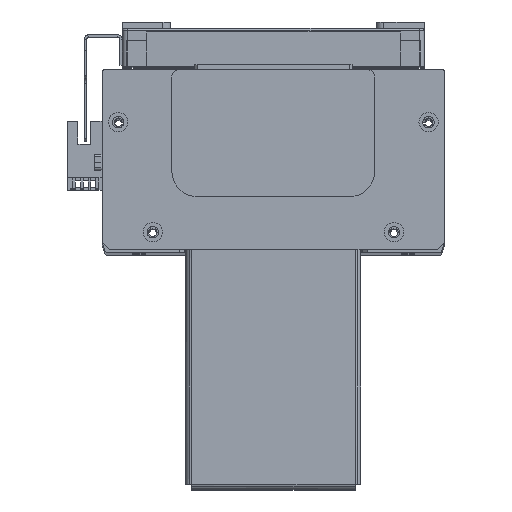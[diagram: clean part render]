
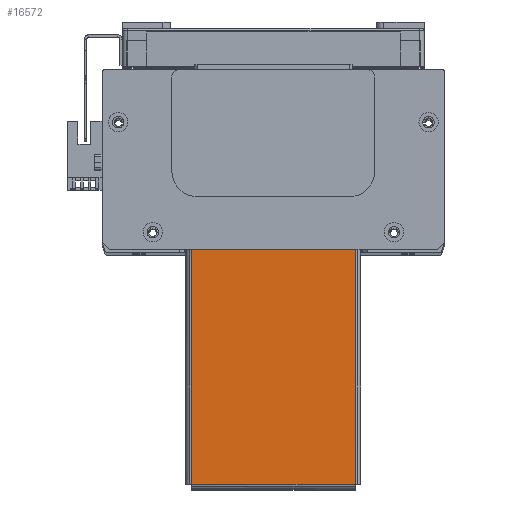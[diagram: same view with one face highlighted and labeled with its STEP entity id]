
A CAD part, top view. The second image highlights one B-rep face of the part: STEP entity #16572.
In plain terms, the highlighted planar face has unit normal (0, 0, 1) as drawn and (0, -1, 0) by its records, which use the part's own axes.
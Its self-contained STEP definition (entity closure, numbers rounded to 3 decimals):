
#1190 = CARTESIAN_POINT ( 'NONE',  ( -2., -1.5, 32.263 ) ) ;
#1232 = CARTESIAN_POINT ( 'NONE',  ( -94.763, -1.5, -32.263 ) ) ;
#1278 = CARTESIAN_POINT ( 'NONE',  ( -94.763, -1.5, 32.263 ) ) ;
#1287 = CARTESIAN_POINT ( 'NONE',  ( -2., -1.5, -32.263 ) ) ;
#10342 = EDGE_CURVE ( 'NONE', #18479, #18539, #47588, .T. ) ;
#10422 = EDGE_CURVE ( 'NONE', #18479, #18563, #47722, .T. ) ;
#10468 = EDGE_CURVE ( 'NONE', #18563, #18515, #47847, .T. ) ;
#10506 = EDGE_CURVE ( 'NONE', #18515, #18539, #47883, .T. ) ;
#16572 = ADVANCED_FACE ( 'NONE', ( #60607 ), #60395, .F. ) ;
#18479 = VERTEX_POINT ( 'NONE', #1190 ) ;
#18515 = VERTEX_POINT ( 'NONE', #1232 ) ;
#18539 = VERTEX_POINT ( 'NONE', #1287 ) ;
#18563 = VERTEX_POINT ( 'NONE', #1278 ) ;
#29113 = ORIENTED_EDGE ( 'NONE', *, *, #10468, .T. ) ;
#29140 = ORIENTED_EDGE ( 'NONE', *, *, #10342, .F. ) ;
#29151 = ORIENTED_EDGE ( 'NONE', *, *, #10422, .T. ) ;
#29155 = ORIENTED_EDGE ( 'NONE', *, *, #10506, .T. ) ;
#35258 = EDGE_LOOP ( 'NONE', ( #29155, #29140, #29151, #29113 ) ) ;
#47580 = VECTOR ( 'NONE', #48186, 1000. ) ;
#47588 = LINE ( 'NONE', #48185, #47580 ) ;
#47722 = LINE ( 'NONE', #48372, #47741 ) ;
#47741 = VECTOR ( 'NONE', #48377, 1000. ) ;
#47847 = LINE ( 'NONE', #48491, #47852 ) ;
#47852 = VECTOR ( 'NONE', #48497, 1000. ) ;
#47883 = LINE ( 'NONE', #48628, #47919 ) ;
#47919 = VECTOR ( 'NONE', #48641, 1000. ) ;
#48185 = CARTESIAN_POINT ( 'NONE',  ( -2., -1.5, 34.5 ) ) ;
#48186 = DIRECTION ( 'NONE',  ( 0., 0., -1. ) ) ;
#48372 = CARTESIAN_POINT ( 'NONE',  ( 94.793, -1.5, 32.263 ) ) ;
#48377 = DIRECTION ( 'NONE',  ( -1., 0., 0. ) ) ;
#48491 = CARTESIAN_POINT ( 'NONE',  ( -94.763, -1.5, 32.293 ) ) ;
#48497 = DIRECTION ( 'NONE',  ( 0., 0., -1. ) ) ;
#48628 = CARTESIAN_POINT ( 'NONE',  ( -94.793, -1.5, -32.263 ) ) ;
#48641 = DIRECTION ( 'NONE',  ( 1., 0., 0. ) ) ;
#55329 = AXIS2_PLACEMENT_3D ( 'NONE', #60394, #60408, #60380 ) ;
#60380 = DIRECTION ( 'NONE',  ( 0., 0., 1. ) ) ;
#60394 = CARTESIAN_POINT ( 'NONE',  ( 0., -1.5, 0. ) ) ;
#60395 = PLANE ( 'NONE',  #55329 ) ;
#60408 = DIRECTION ( 'NONE',  ( 0., 1., 0. ) ) ;
#60607 = FACE_OUTER_BOUND ( 'NONE', #35258, .T. ) ;
